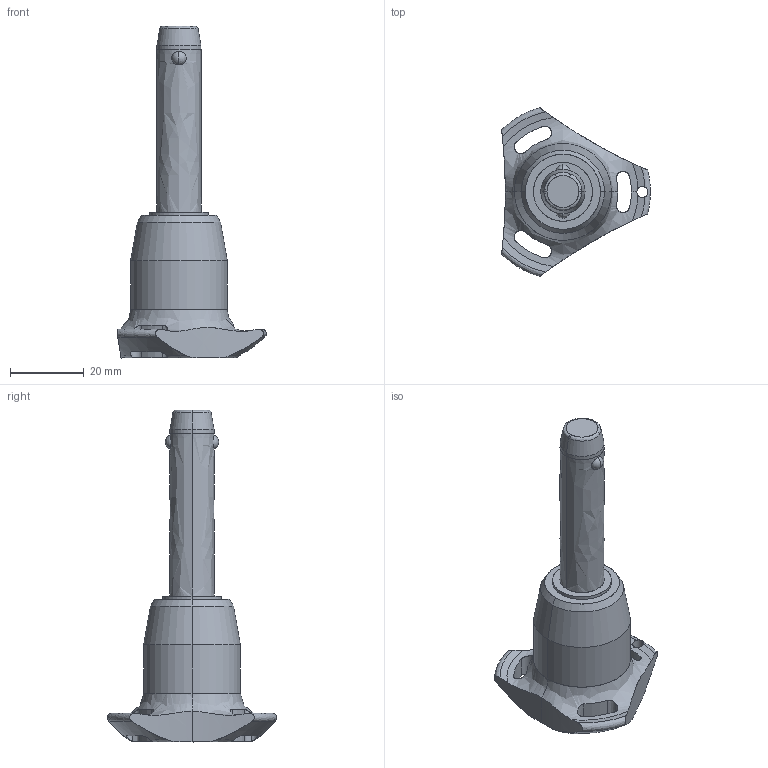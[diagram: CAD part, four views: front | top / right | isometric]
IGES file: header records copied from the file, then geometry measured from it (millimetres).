
Start section: SolidWorks IGES file using analytic representation for surfaces
Global section: file name: C:\Users\ianosborn\Desktop\QR1736_v2\QR1736_v2_20251115_IGES\QR1736.M12-040-T.igs; native system: SolidWorks 2019; preprocessor: SolidWorks 2019; author: IanOsborn; date: 251113.120236; units: millimetre
Bounding box: 40.5 x 45.88 x 90.3 mm (x, y, z)
Surface area: 7845.8 mm2 (no closed solid volume)
Topology: 0 solids, 0 shells, 68 faces, 1435 edges, 1431 vertices
Faces by surface type: revolution 52, bspline 16
